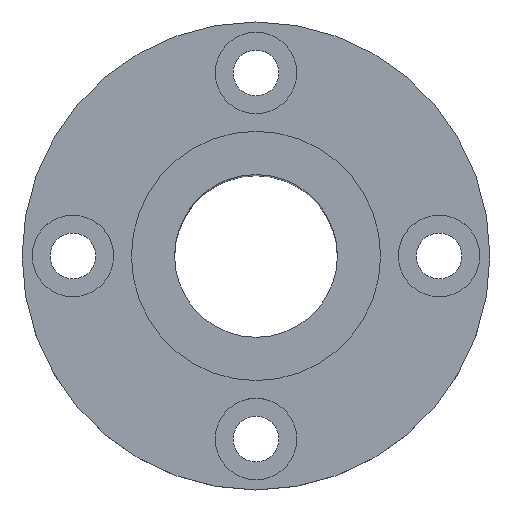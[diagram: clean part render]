
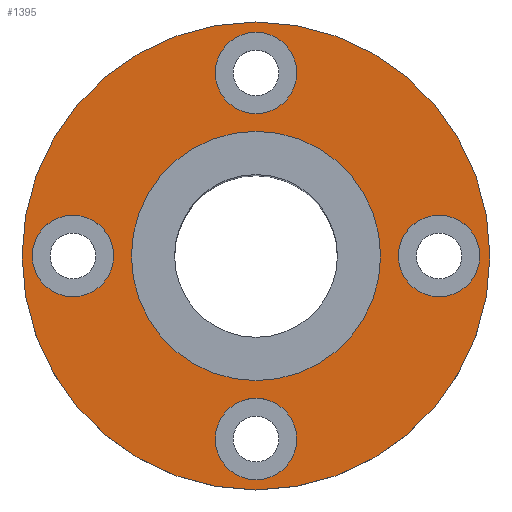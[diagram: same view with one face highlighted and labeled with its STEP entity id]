
A CAD part, top view. The second image highlights one B-rep face of the part: STEP entity #1395.
In plain terms, the highlighted planar face has unit normal (0, 0, 1).
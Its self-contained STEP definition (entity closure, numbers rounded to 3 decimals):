
#133=CARTESIAN_POINT('',(-12.25,0.,35.0));
#134=VERTEX_POINT('',#133);
#143=CARTESIAN_POINT('',(12.25,0.,35.0));
#144=VERTEX_POINT('',#143);
#145=CARTESIAN_POINT('',(0.0,0.0,35.0));
#146=DIRECTION('',(0.0,0.0,-1.0));
#147=DIRECTION('',(-1.0,0.0,0.0));
#148=AXIS2_PLACEMENT_3D('',#145,#146,#147);
#149=CIRCLE('',#148,12.25);
#150=EDGE_CURVE('',#144,#134,#149,.T.);
#217=CARTESIAN_POINT('',(-23.,0.,35.0));
#218=VERTEX_POINT('',#217);
#227=CARTESIAN_POINT('',(23.,0.,35.0));
#228=VERTEX_POINT('',#227);
#229=CARTESIAN_POINT('',(0.0,0.0,35.0));
#230=DIRECTION('',(0.0,0.0,-1.0));
#231=DIRECTION('',(-1.0,0.0,0.0));
#232=AXIS2_PLACEMENT_3D('',#229,#230,#231);
#233=CIRCLE('',#232,23.);
#234=EDGE_CURVE('',#218,#228,#233,.T.);
#345=CARTESIAN_POINT('',(22.0,0.0,35.0));
#346=VERTEX_POINT('',#345);
#362=CARTESIAN_POINT('',(14.0,0.,35.0));
#363=VERTEX_POINT('',#362);
#370=CARTESIAN_POINT('',(18.0,0.0,35.0));
#371=DIRECTION('',(0.0,0.0,-1.0));
#372=DIRECTION('',(1.0,0.0,0.0));
#373=AXIS2_PLACEMENT_3D('',#370,#371,#372);
#374=CIRCLE('',#373,4.0);
#375=EDGE_CURVE('',#346,#363,#374,.T.);
#471=CARTESIAN_POINT('',(0.,22.0,35.0));
#472=VERTEX_POINT('',#471);
#488=CARTESIAN_POINT('',(0.,14.0,35.0));
#489=VERTEX_POINT('',#488);
#496=CARTESIAN_POINT('',(0.,18.0,35.0));
#497=DIRECTION('',(0.0,0.0,-1.0));
#498=DIRECTION('',(0.0,1.0,0.0));
#499=AXIS2_PLACEMENT_3D('',#496,#497,#498);
#500=CIRCLE('',#499,4.0);
#501=EDGE_CURVE('',#472,#489,#500,.T.);
#597=CARTESIAN_POINT('',(-22.0,0.,35.0));
#598=VERTEX_POINT('',#597);
#614=CARTESIAN_POINT('',(-14.0,0.,35.0));
#615=VERTEX_POINT('',#614);
#622=CARTESIAN_POINT('',(-18.0,0.,35.0));
#623=DIRECTION('',(0.0,0.0,-1.0));
#624=DIRECTION('',(-1.0,0.0,0.0));
#625=AXIS2_PLACEMENT_3D('',#622,#623,#624);
#626=CIRCLE('',#625,4.0);
#627=EDGE_CURVE('',#598,#615,#626,.T.);
#723=CARTESIAN_POINT('',(0.,-22.0,35.0));
#724=VERTEX_POINT('',#723);
#740=CARTESIAN_POINT('',(0.,-14.0,35.0));
#741=VERTEX_POINT('',#740);
#748=CARTESIAN_POINT('',(0.,-18.0,35.0));
#749=DIRECTION('',(0.0,0.0,-1.0));
#750=DIRECTION('',(0.0,-1.0,0.0));
#751=AXIS2_PLACEMENT_3D('',#748,#749,#750);
#752=CIRCLE('',#751,4.0);
#753=EDGE_CURVE('',#724,#741,#752,.T.);
#811=CARTESIAN_POINT('',(0.,-18.0,35.0));
#812=DIRECTION('',(0.0,0.0,-1.0));
#813=DIRECTION('',(0.0,-1.0,0.0));
#814=AXIS2_PLACEMENT_3D('',#811,#812,#813);
#815=CIRCLE('',#814,4.0);
#816=EDGE_CURVE('',#741,#724,#815,.T.);
#915=CARTESIAN_POINT('',(-18.0,0.,35.0));
#916=DIRECTION('',(0.0,0.0,-1.0));
#917=DIRECTION('',(-1.0,0.0,0.0));
#918=AXIS2_PLACEMENT_3D('',#915,#916,#917);
#919=CIRCLE('',#918,4.0);
#920=EDGE_CURVE('',#615,#598,#919,.T.);
#1019=CARTESIAN_POINT('',(0.,18.0,35.0));
#1020=DIRECTION('',(0.0,0.0,-1.0));
#1021=DIRECTION('',(0.0,1.0,0.0));
#1022=AXIS2_PLACEMENT_3D('',#1019,#1020,#1021);
#1023=CIRCLE('',#1022,4.0);
#1024=EDGE_CURVE('',#489,#472,#1023,.T.);
#1123=CARTESIAN_POINT('',(18.0,0.0,35.0));
#1124=DIRECTION('',(0.0,0.0,-1.0));
#1125=DIRECTION('',(1.0,0.0,0.0));
#1126=AXIS2_PLACEMENT_3D('',#1123,#1124,#1125);
#1127=CIRCLE('',#1126,4.0);
#1128=EDGE_CURVE('',#363,#346,#1127,.T.);
#1188=CARTESIAN_POINT('',(0.0,0.0,35.0));
#1189=DIRECTION('',(0.0,0.0,-1.0));
#1190=DIRECTION('',(-1.0,0.0,0.0));
#1191=AXIS2_PLACEMENT_3D('',#1188,#1189,#1190);
#1192=CIRCLE('',#1191,23.);
#1193=EDGE_CURVE('',#228,#218,#1192,.T.);
#1306=CARTESIAN_POINT('',(0.0,0.0,35.0));
#1307=DIRECTION('',(0.0,0.0,-1.0));
#1308=DIRECTION('',(-1.0,0.0,0.0));
#1309=AXIS2_PLACEMENT_3D('',#1306,#1307,#1308);
#1310=CIRCLE('',#1309,12.25);
#1311=EDGE_CURVE('',#134,#144,#1310,.T.);
#1366=CARTESIAN_POINT('',(0.0,0.0,35.0));
#1367=DIRECTION('',(0.0,0.0,-1.0));
#1368=DIRECTION('',(-1.0,0.0,0.0));
#1369=AXIS2_PLACEMENT_3D('',#1366,#1367,#1368);
#1370=PLANE('',#1369);
#1371=ORIENTED_EDGE('',*,*,#1193,.F.);
#1372=ORIENTED_EDGE('',*,*,#234,.F.);
#1373=EDGE_LOOP('',(#1371,#1372));
#1374=FACE_OUTER_BOUND('',#1373,.T.);
#1375=ORIENTED_EDGE('',*,*,#753,.T.);
#1376=ORIENTED_EDGE('',*,*,#816,.T.);
#1377=EDGE_LOOP('',(#1375,#1376));
#1378=FACE_BOUND('',#1377,.T.);
#1379=ORIENTED_EDGE('',*,*,#627,.T.);
#1380=ORIENTED_EDGE('',*,*,#920,.T.);
#1381=EDGE_LOOP('',(#1379,#1380));
#1382=FACE_BOUND('',#1381,.T.);
#1383=ORIENTED_EDGE('',*,*,#501,.T.);
#1384=ORIENTED_EDGE('',*,*,#1024,.T.);
#1385=EDGE_LOOP('',(#1383,#1384));
#1386=FACE_BOUND('',#1385,.T.);
#1387=ORIENTED_EDGE('',*,*,#375,.T.);
#1388=ORIENTED_EDGE('',*,*,#1128,.T.);
#1389=EDGE_LOOP('',(#1387,#1388));
#1390=FACE_BOUND('',#1389,.T.);
#1391=ORIENTED_EDGE('',*,*,#150,.T.);
#1392=ORIENTED_EDGE('',*,*,#1311,.T.);
#1393=EDGE_LOOP('',(#1391,#1392));
#1394=FACE_BOUND('',#1393,.T.);
#1395=ADVANCED_FACE('',(#1374,#1378,#1382,#1386,#1390,#1394),#1370,.F.);
